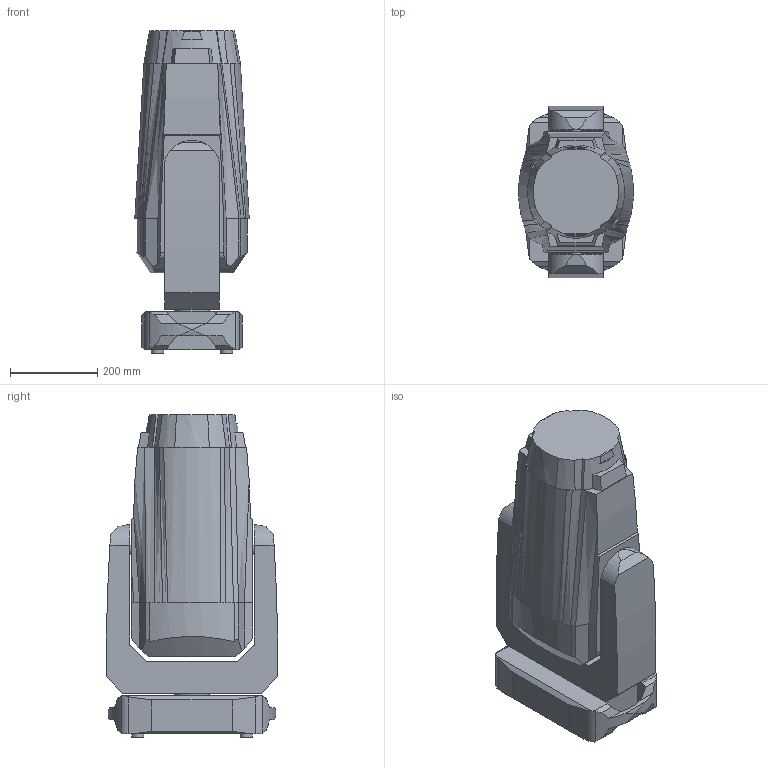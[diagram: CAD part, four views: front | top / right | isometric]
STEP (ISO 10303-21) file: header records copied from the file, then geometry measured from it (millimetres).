
FILE_DESCRIPTION(/* description */ ('Unknown'),/* implementation_level */ '2;1');
FILE_NAME(/* name */ '3D-TX1',/* time_stamp */ '2022-09-05T11:21:41+02:00',/* author */ ('Unknown'),/* organization */ ('Unknown'),/* preprocessor_version */ 'ST-DEVELOPER v18.102',/* originating_system */ 'Solid Edge',/* authorisation */ 'Unknown');
FILE_SCHEMA (('AUTOMOTIVE_DESIGN {1 0 10303 214 3 1 1}'));
Length unit declared in the file: millimetre
Products named in the file (4): 3D-TX1; TX1-Base; TX1-Arm; TX1-Head
Assembly tree (3 placements, depth 2):
  3D-TX1
    TX1-Base
    TX1-Arm
    TX1-Head
Bounding box: 262.28 x 392.9 x 738.99 mm (x, y, z)
Volume: 43122722.8 mm3; surface area: 1230244.7 mm2
Topology: 3 solids, 3 shells, 192 faces, 521 edges, 341 vertices
Faces by surface type: plane 108, cylinder 50, bspline 24, cone 10
Full cylindrical faces by diameter (mm): 11 x4, 21.434 x1, 22 x1, 28 x4, 60 x1, 80 x1
Entity records: 6455 total; most frequent: CARTESIAN_POINT 1712, ORIENTED_EDGE 1006, DIRECTION 902, EDGE_CURVE 503, VERTEX_POINT 335, AXIS2_PLACEMENT_3D 329, LINE 244, VECTOR 244
